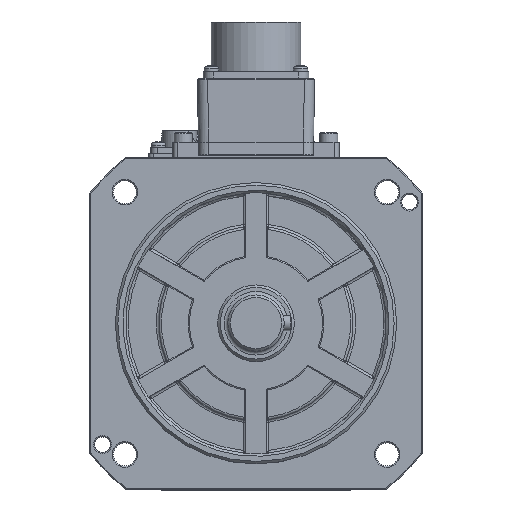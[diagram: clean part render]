
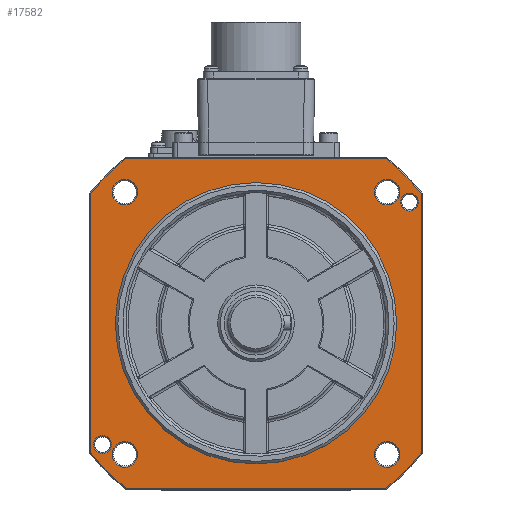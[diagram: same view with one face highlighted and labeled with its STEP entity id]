
A CAD part, top view. The second image highlights one B-rep face of the part: STEP entity #17582.
In plain terms, the highlighted planar face has unit normal (0, 0, 1).
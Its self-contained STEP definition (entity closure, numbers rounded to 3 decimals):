
#10773=CARTESIAN_POINT('',(55.0,0.,0.0));
#10774=VERTEX_POINT('',#10773);
#10775=CARTESIAN_POINT('',(0.0,0.0,0.0));
#10776=DIRECTION('',(0.0,0.0,-1.0));
#10777=DIRECTION('',(-1.0,0.0,0.0));
#10778=AXIS2_PLACEMENT_3D('',#10775,#10776,#10777);
#10779=CIRCLE('',#10778,55.0);
#10780=EDGE_CURVE('',#10774,#10774,#10779,.T.);
#17354=CARTESIAN_POINT('',(-46.265,51.265,0.0));
#17355=VERTEX_POINT('',#17354);
#17356=CARTESIAN_POINT('',(-51.265,51.265,0.0));
#17357=DIRECTION('',(0.0,0.0,1.0));
#17358=DIRECTION('',(-1.0,0.0,0.0));
#17359=AXIS2_PLACEMENT_3D('',#17356,#17357,#17358);
#17360=CIRCLE('',#17359,5.);
#17361=EDGE_CURVE('',#17355,#17355,#17360,.T.);
#17382=CARTESIAN_POINT('',(-63.5,-47.4,0.0));
#17383=VERTEX_POINT('',#17382);
#17384=CARTESIAN_POINT('',(-60.,-47.4,0.0));
#17385=DIRECTION('',(0.0,0.0,1.0));
#17386=DIRECTION('',(1.0,0.0,0.0));
#17387=AXIS2_PLACEMENT_3D('',#17384,#17385,#17386);
#17388=CIRCLE('',#17387,3.5);
#17389=EDGE_CURVE('',#17383,#17383,#17388,.T.);
#17410=CARTESIAN_POINT('',(-51.265,-46.265,0.0));
#17411=VERTEX_POINT('',#17410);
#17412=CARTESIAN_POINT('',(-51.265,-51.265,0.0));
#17413=DIRECTION('',(0.0,0.0,1.0));
#17414=DIRECTION('',(0.0,-1.0,0.0));
#17415=AXIS2_PLACEMENT_3D('',#17412,#17413,#17414);
#17416=CIRCLE('',#17415,5.);
#17417=EDGE_CURVE('',#17411,#17411,#17416,.T.);
#17438=CARTESIAN_POINT('',(46.265,-51.265,0.0));
#17439=VERTEX_POINT('',#17438);
#17440=CARTESIAN_POINT('',(51.265,-51.265,0.0));
#17441=DIRECTION('',(0.0,0.0,1.0));
#17442=DIRECTION('',(1.0,0.0,0.0));
#17443=AXIS2_PLACEMENT_3D('',#17440,#17441,#17442);
#17444=CIRCLE('',#17443,5.);
#17445=EDGE_CURVE('',#17439,#17439,#17444,.T.);
#17466=CARTESIAN_POINT('',(51.265,46.265,0.0));
#17467=VERTEX_POINT('',#17466);
#17468=CARTESIAN_POINT('',(51.265,51.265,0.0));
#17469=DIRECTION('',(0.0,0.0,1.0));
#17470=DIRECTION('',(0.0,1.0,0.0));
#17471=AXIS2_PLACEMENT_3D('',#17468,#17469,#17470);
#17472=CIRCLE('',#17471,5.);
#17473=EDGE_CURVE('',#17467,#17467,#17472,.T.);
#17478=CARTESIAN_POINT('',(0.,0.,0.0));
#17479=DIRECTION('',(0.0,0.0,1.0));
#17480=DIRECTION('',(1.0,0.0,0.0));
#17481=AXIS2_PLACEMENT_3D('',#17478,#17479,#17480);
#17482=PLANE('',#17481);
#17483=CARTESIAN_POINT('',(50.668,64.6,0.0));
#17484=VERTEX_POINT('',#17483);
#17485=CARTESIAN_POINT('',(64.6,50.668,0.0));
#17486=VERTEX_POINT('',#17485);
#17487=CARTESIAN_POINT('',(0.0,0.0,0.0));
#17488=DIRECTION('',(0.0,0.0,-1.));
#17489=DIRECTION('',(0.788,0.616,0.0));
#17490=AXIS2_PLACEMENT_3D('',#17487,#17488,#17489);
#17491=CIRCLE('',#17490,82.1);
#17492=EDGE_CURVE('',#17484,#17486,#17491,.T.);
#17493=ORIENTED_EDGE('',*,*,#17492,.F.);
#17494=CARTESIAN_POINT('',(-50.668,64.6,0.0));
#17495=VERTEX_POINT('',#17494);
#17496=CARTESIAN_POINT('',(-50.668,64.6,0.0));
#17497=DIRECTION('',(1.0,0.0,0.0));
#17498=VECTOR('',#17497,101.336);
#17499=LINE('',#17496,#17498);
#17500=EDGE_CURVE('',#17495,#17484,#17499,.T.);
#17501=ORIENTED_EDGE('',*,*,#17500,.F.);
#17502=CARTESIAN_POINT('',(-64.6,50.668,0.0));
#17503=VERTEX_POINT('',#17502);
#17504=CARTESIAN_POINT('',(0.0,0.0,0.0));
#17505=DIRECTION('',(0.0,0.0,-1.0));
#17506=DIRECTION('',(-0.616,0.788,0.0));
#17507=AXIS2_PLACEMENT_3D('',#17504,#17505,#17506);
#17508=CIRCLE('',#17507,82.1);
#17509=EDGE_CURVE('',#17503,#17495,#17508,.T.);
#17510=ORIENTED_EDGE('',*,*,#17509,.F.);
#17511=CARTESIAN_POINT('',(-64.6,-50.668,0.0));
#17512=VERTEX_POINT('',#17511);
#17513=CARTESIAN_POINT('',(-64.6,-50.668,0.0));
#17514=DIRECTION('',(0.0,1.0,0.0));
#17515=VECTOR('',#17514,101.336);
#17516=LINE('',#17513,#17515);
#17517=EDGE_CURVE('',#17512,#17503,#17516,.T.);
#17518=ORIENTED_EDGE('',*,*,#17517,.F.);
#17519=CARTESIAN_POINT('',(-50.668,-64.6,0.0));
#17520=VERTEX_POINT('',#17519);
#17521=CARTESIAN_POINT('',(0.0,0.0,0.0));
#17522=DIRECTION('',(0.0,0.0,-1.0));
#17523=DIRECTION('',(-0.788,-0.616,0.0));
#17524=AXIS2_PLACEMENT_3D('',#17521,#17522,#17523);
#17525=CIRCLE('',#17524,82.1);
#17526=EDGE_CURVE('',#17520,#17512,#17525,.T.);
#17527=ORIENTED_EDGE('',*,*,#17526,.F.);
#17528=CARTESIAN_POINT('',(50.668,-64.6,0.0));
#17529=VERTEX_POINT('',#17528);
#17530=CARTESIAN_POINT('',(50.668,-64.6,0.0));
#17531=DIRECTION('',(-1.0,0.0,0.0));
#17532=VECTOR('',#17531,101.336);
#17533=LINE('',#17530,#17532);
#17534=EDGE_CURVE('',#17529,#17520,#17533,.T.);
#17535=ORIENTED_EDGE('',*,*,#17534,.F.);
#17536=CARTESIAN_POINT('',(64.6,-50.668,0.0));
#17537=VERTEX_POINT('',#17536);
#17538=CARTESIAN_POINT('',(0.0,0.0,0.0));
#17539=DIRECTION('',(0.0,0.0,-1.));
#17540=DIRECTION('',(0.616,-0.788,0.0));
#17541=AXIS2_PLACEMENT_3D('',#17538,#17539,#17540);
#17542=CIRCLE('',#17541,82.1);
#17543=EDGE_CURVE('',#17537,#17529,#17542,.T.);
#17544=ORIENTED_EDGE('',*,*,#17543,.F.);
#17545=CARTESIAN_POINT('',(64.6,50.668,0.0));
#17546=DIRECTION('',(0.0,-1.0,0.0));
#17547=VECTOR('',#17546,101.336);
#17548=LINE('',#17545,#17547);
#17549=EDGE_CURVE('',#17486,#17537,#17548,.T.);
#17550=ORIENTED_EDGE('',*,*,#17549,.F.);
#17551=EDGE_LOOP('',(#17493,#17501,#17510,#17518,#17527,#17535,#17544,#17550));
#17552=FACE_OUTER_BOUND('',#17551,.T.);
#17553=ORIENTED_EDGE('',*,*,#17473,.F.);
#17554=EDGE_LOOP('',(#17553));
#17555=FACE_BOUND('',#17554,.T.);
#17556=ORIENTED_EDGE('',*,*,#17417,.F.);
#17557=EDGE_LOOP('',(#17556));
#17558=FACE_BOUND('',#17557,.T.);
#17559=ORIENTED_EDGE('',*,*,#17361,.F.);
#17560=EDGE_LOOP('',(#17559));
#17561=FACE_BOUND('',#17560,.T.);
#17562=ORIENTED_EDGE('',*,*,#10780,.T.);
#17563=EDGE_LOOP('',(#17562));
#17564=FACE_BOUND('',#17563,.T.);
#17565=ORIENTED_EDGE('',*,*,#17389,.F.);
#17566=EDGE_LOOP('',(#17565));
#17567=FACE_BOUND('',#17566,.T.);
#17568=ORIENTED_EDGE('',*,*,#17445,.F.);
#17569=EDGE_LOOP('',(#17568));
#17570=FACE_BOUND('',#17569,.T.);
#17571=CARTESIAN_POINT('',(63.5,47.4,0.0));
#17572=VERTEX_POINT('',#17571);
#17573=CARTESIAN_POINT('',(60.0,47.4,0.0));
#17574=DIRECTION('',(0.0,0.0,1.0));
#17575=DIRECTION('',(-1.0,0.0,0.0));
#17576=AXIS2_PLACEMENT_3D('',#17573,#17574,#17575);
#17577=CIRCLE('',#17576,3.5);
#17578=EDGE_CURVE('',#17572,#17572,#17577,.T.);
#17579=ORIENTED_EDGE('',*,*,#17578,.F.);
#17580=EDGE_LOOP('',(#17579));
#17581=FACE_BOUND('',#17580,.T.);
#17582=ADVANCED_FACE('',(#17552,#17555,#17558,#17561,#17564,#17567,#17570,#17581),#17482,.T.);
